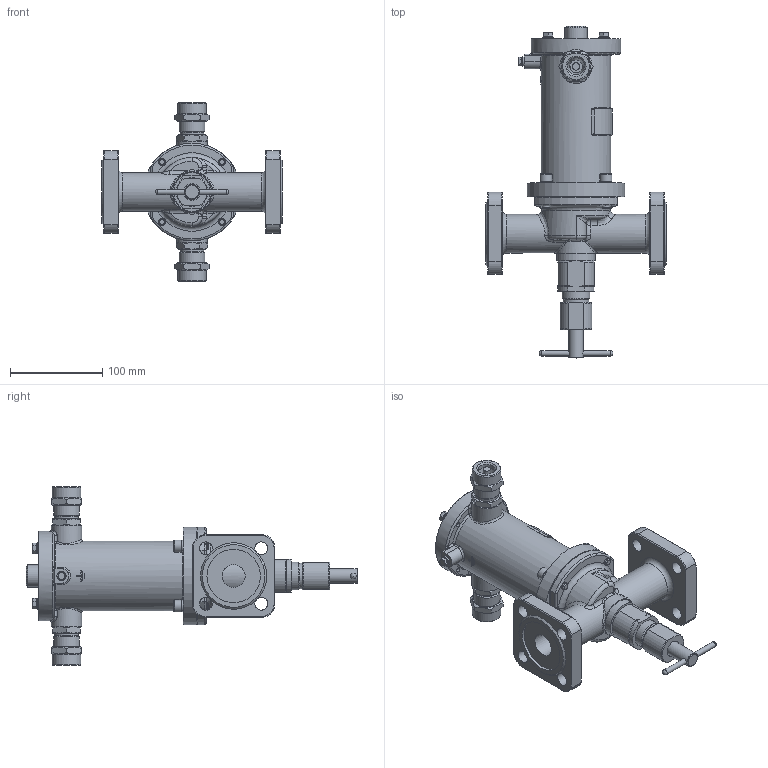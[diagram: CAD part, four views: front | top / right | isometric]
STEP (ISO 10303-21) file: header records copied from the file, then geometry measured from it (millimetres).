
FILE_DESCRIPTION(('STEP AP203'), '1');
FILE_NAME('ÑÅÍÑ DN25PN25-ÑÂ.stp', '2018-09-19T08:34:52', ('Îðëîâ Å.Â.'), ('ÎÎÎ ÍÏÏ Ñåíñîð'), 'ASCON STEP Converter 1.3', 'Kompas 3D', '');
FILE_SCHEMA(('CONFIG_CONTROL_DESIGN','SUPPORT_RESOURCE_SCHEMA'));
Length unit declared in the file: millimetre
Products named in the file (1): 11
Bounding box: 196 x 360.5 x 194 mm (x, y, z)
Volume: 1031676.3 mm3; surface area: 268938.6 mm2
Topology: 3 solids, 18 shells, 1959 faces, 5212 edges, 3378 vertices
Faces by surface type: cylinder 996, plane 714, cone 124, torus 57, bspline 50, extrusion 16, sphere 2
Full cylindrical faces by diameter (mm): 3.5 x2, 4.134 x1, 4.917 x4, 5 x1, 6 x14, 6.5 x4, 8 x12, 9 x4, 10 x1, 12 x4, 13 x6, 14 x8, 16 x3, 17 x2, 18 x1, 18.632 x2, 19.9 x1, 20 x3, 22 x2, 22.376 x2, 23 x1, 23.5 x2, 24 x3, 24.5 x2, 25 x2, 26 x4, 26.376 x2, 27.8 x1, 28 x3, 28.5 x2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
Entity records: 76418 total; most frequent: CARTESIAN_POINT 26627, DIRECTION 10778, ORIENTED_EDGE 10382, EDGE_CURVE 5191, AXIS2_PLACEMENT_3D 4147, VERTEX_POINT 3378, VECTOR 2484, LINE 2468
